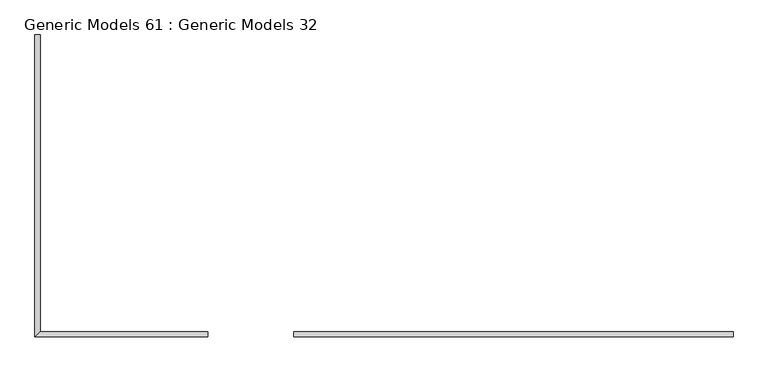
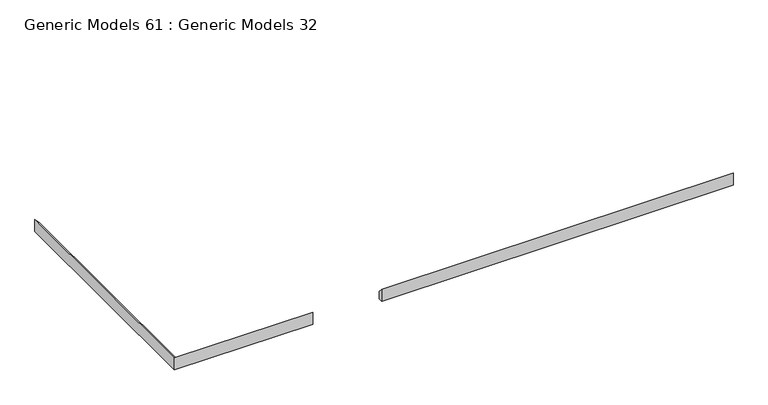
"""IFC4 building model written with IfcOpenShell, lengths in millimetres: proxy geometry, Generic Models 61 : Generic Models 32."""

from ifc_helpers import new_model, si_unit, frame, origin, place, context, project, spatial, polyline, outline, extrude, faceted_brep, source, transform, mapped, element, save


def generic_models_61_generic_models_32_4aa8cace(model_context):
    return source(origin(), model_context, "Body", "SolidModel", [
        extrude(outline(polyline([(22657.4703267, 44170.0), (22507.4703267, 44170.0), (22507.4703267, 44630.0), (22657.4703267, 44470.0), (22657.4703267, 44170.0)])), frame((-97302.6996211, 0.0, 0.0), z_axis=(1.0, 0.0, 0.0), x_axis=(0.0, 1.0, 0.0)), (0.0, 0.0, 1.0), 12794.7623443),
        faceted_brep([(-104697.9372768, 22657.4703267, 44470.0), (-104697.9372768, 22657.4703267, 44170.0), (-104697.9372768, 31300.9151802, 44170.0), (-104697.9372768, 31300.9151802, 44470.0), (-104847.9372768, 22507.4703267, 44630.0), (-104847.9372768, 31300.9151802, 44630.0), (-104847.9372768, 22507.4703267, 44170.0), (-104847.9372768, 31300.9151802, 44170.0), (-99807.9372768, 22657.4703267, 44170.0), (-99807.9372768, 22657.4703267, 44470.0), (-99807.9372768, 22507.4703267, 44630.0), (-99807.9372768, 22507.4703267, 44170.0)], [[[0, 1, 2, 3]], [[4, 0, 3, 5]], [[6, 4, 5, 7]], [[8, 9, 10, 11]], [[2, 7, 5, 3]], [[9, 8, 1, 0]], [[10, 9, 0, 4]], [[11, 10, 4, 6]], [[8, 11, 6, 7, 2, 1]]]),
    ])


if __name__ == "__main__":
    model = new_model("IFC4")
    model_context = context("Model", 3, world=origin())
    ifc_project = project(units=[si_unit("LENGTHUNIT", "METRE", prefix="MILLI")], contexts=[model_context])
    site = spatial("IfcSite", under=ifc_project)
    building = spatial("IfcBuilding", under=site)
    placement = place(None, origin())
    generic_models_61_generic_models_32_shape = generic_models_61_generic_models_32_4aa8cace(model_context)
    element("IfcBuildingElementProxy", 1, Name="Generic Models 61 : Generic Models 32", ObjectType="Generic Models 61 : Generic Models 32", at=placement, inside=building, context=model_context, shape_type="MappedRepresentation", body=[
        mapped(generic_models_61_generic_models_32_shape, transform((0.0, 0.0, 0.0), x_axis=(1.0, 0.0, 0.0), y_axis=(0.0, 1.0, 0.0), z_axis=(0.0, 0.0, 1.0))),
    ])
    save(model, "model.ifc")
